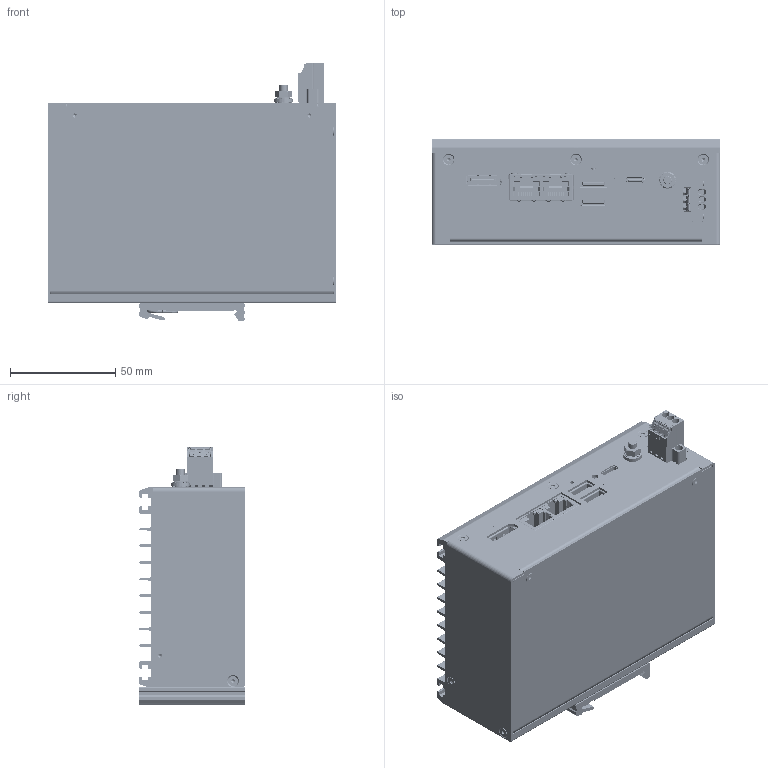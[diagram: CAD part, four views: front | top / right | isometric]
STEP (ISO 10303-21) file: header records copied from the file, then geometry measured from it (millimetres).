
FILE_DESCRIPTION(/* description */ (''),/* implementation_level */ '2;1');
FILE_NAME(/* name */ 'Z:\Mechanikentwicklung\Projekte\60-60451_KBox_A-251_KEB_Most\012_STEP-Files\2-A0DX-0013_KBox A-251-AL-743-08-064-2-100-1-L-KEB.stp',/* time_stamp */ '2026-03-30T14:44:33+02:00',/* author */ ('TRoidl'),/* organization */ (''),/* preprocessor_version */ 'ST-DEVELOPER v20',/* originating_system */ 'Autodesk Inventor 2022',/* authorisation */ '');
FILE_SCHEMA (('CONFIG_CONTROL_DESIGN'));
Products named in the file (1): 2-A0DX-0013_KBox A-251-AL-743-08-064-2-100-1-L-KEB
Bounding box: 137 x 50 x 122.79 mm (x, y, z)
Volume: 177620.6 mm3; surface area: 150563 mm2
Topology: 157 solids, 158 shells, 14493 faces, 39118 edges, 25047 vertices
Faces by surface type: plane 10215, cylinder 3446, bspline 500, cone 161, torus 106, sphere 65
Full cylindrical faces by diameter (mm): 0.457 x1, 0.5 x26, 0.6 x16, 0.65 x2, 0.7 x2, 0.8 x22, 0.9 x2, 1.18 x3, 1.2 x6, 1.25 x3, 1.5 x7, 1.6 x2, 1.8 x2, 2 x7, 2.013 x9, 2.208 x9, 2.4 x2, 2.459 x7, 2.5 x14, 2.6 x2, 2.7 x1, 3 x4, 3.1 x1, 3.2 x2, 3.242 x3, 3.545 x2, 3.8 x2, 3.9 x2, 4 x4, 4.25 x1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
Entity records: 517929 total; most frequent: CARTESIAN_POINT 137627, ORIENTED_EDGE 78056, DIRECTION 72976, EDGE_CURVE 39028, LINE 30428, VECTOR 30428, VERTEX_POINT 25040, AXIS2_PLACEMENT_3D 21274
